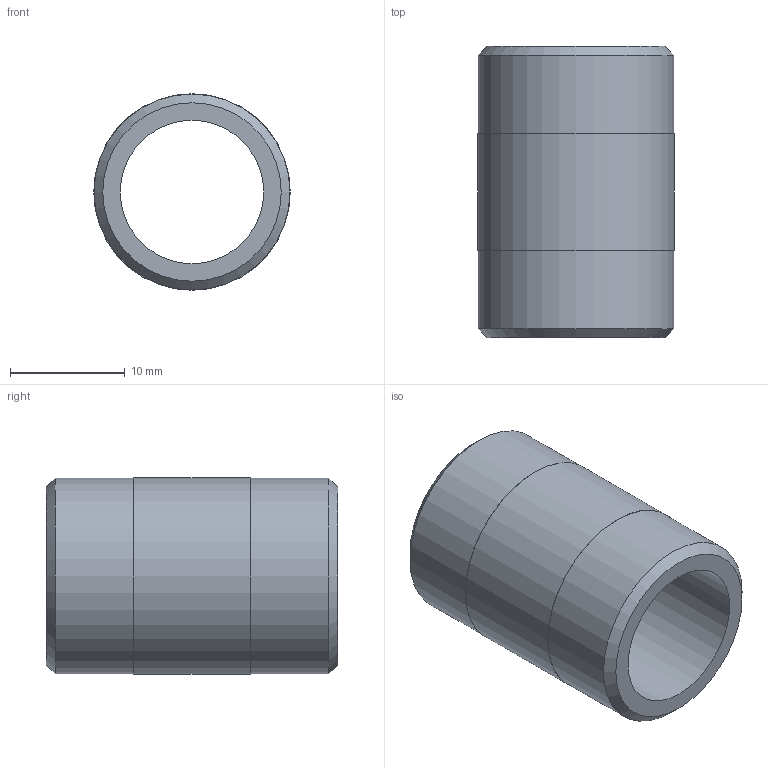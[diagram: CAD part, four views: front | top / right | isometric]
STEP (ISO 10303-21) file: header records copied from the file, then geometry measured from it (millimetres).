
FILE_DESCRIPTION(/* description */ (''),/* implementation_level */ '2;1');
FILE_NAME(/* name */ 'C:/Users/drich/Desktop/SSPN38-CLOSE v1.step',/* time_stamp */ '2020-01-04T13:58:56-06:00',/* author */ (''),/* organization */ (''),/* preprocessor_version */ 'ST-DEVELOPER v18',/* originating_system */ 'Autodesk Translation Framework v8.12.0.6',/* authorisation */ '');
FILE_SCHEMA (('AUTOMOTIVE_DESIGN { 1 0 10303 214 3 1 1 }'));
Length unit declared in the file: inch
Products named in the file (1): SSPN38-CLOSE
Bounding box: 17.14 x 25.4 x 17.14 mm (x, y, z)
Volume: 2684.9 mm3; surface area: 2530.9 mm2
Topology: 1 solids, 1 shells, 10 faces, 24 edges, 18 vertices
Faces by surface type: cylinder 4, plane 4, cone 2
Full cylindrical faces by diameter (mm): 12.522 x1, 17.094 x2, 17.145 x1
Entity records: 353 total; most frequent: DIRECTION 64, CARTESIAN_POINT 53, ORIENTED_EDGE 48, AXIS2_PLACEMENT_3D 29, EDGE_CURVE 24, CIRCLE 18, VERTEX_POINT 18, EDGE_LOOP 14
